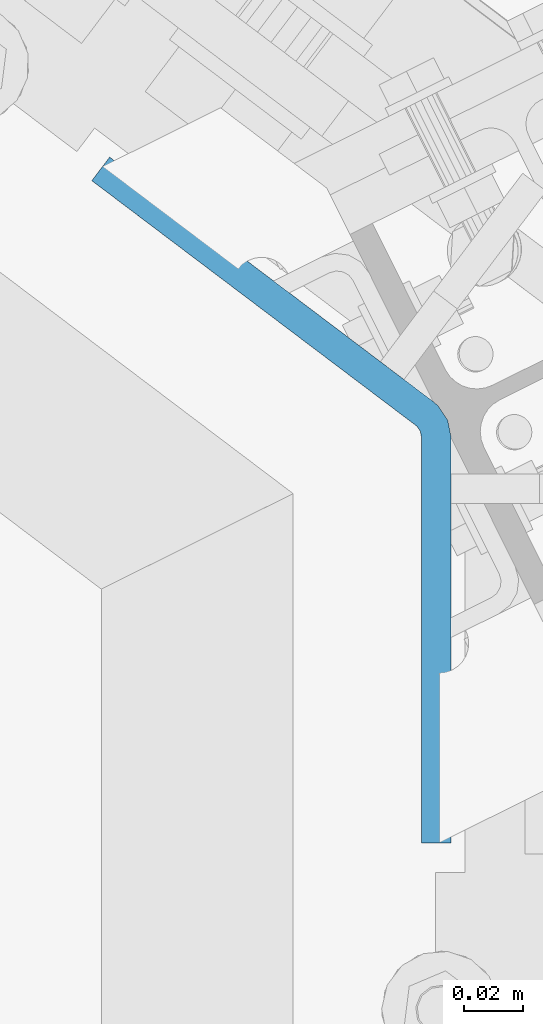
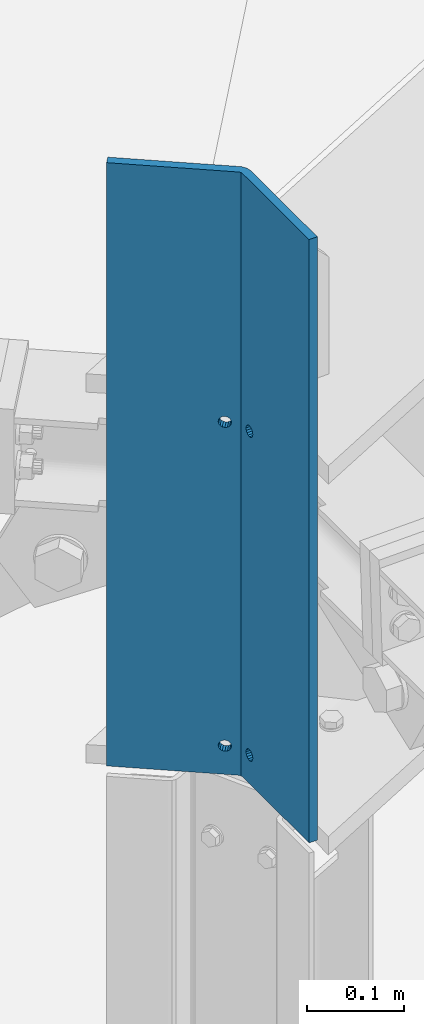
# One storey, part 84 of 476: 1 plate.
"""IFC2X3 building model written with IfcOpenShell, lengths in millimetres."""

from ifc_helpers import new_model, entity, si_unit, converted_unit, origin_with_axes, place, context, project, spatial, faceted_brep, material, layer, layer_set, element, save


model = new_model("IFC2X3")

# Units and contexts
model_context = context("Model", 3, precision=1e-09, world=origin_with_axes())
ifc_project = project(units=[si_unit("LENGTHUNIT", "METRE", prefix="MILLI"), si_unit("AREAUNIT", "SQUARE_METRE"), si_unit("VOLUMEUNIT", "CUBIC_METRE"), converted_unit("PLANEANGLEUNIT", "DEGREE", entity("IfcPlaneAngleMeasure", 0.01745329), si_unit("PLANEANGLEUNIT", "RADIAN"), dimensions=[0, 0, 0, 0, 0, 0, 0])], contexts=[model_context])

# Site, building, storey
site_placement = place(None, origin_with_axes())
site = spatial("IfcSite", under=ifc_project, at=site_placement, Name="mKR Teilneubau & Sanierung BA1 - Ostfildern", CompositionType="ELEMENT")
building_placement = place(site_placement, origin_with_axes())
building = spatial("IfcBuilding", under=site, at=building_placement, Name="Struktur 1", CompositionType="ELEMENT")
storey_placement = place(building_placement, origin_with_axes())
storey = spatial("IfcBuildingStorey", under=building, at=storey_placement, Name="Default Storey", CompositionType="ELEMENT", Elevation=0.0)

# Plate
ifc_material = material(Name="S235JR")
ifc_layer = layer(ifc_material, 10.0)
ifc_layer_set = layer_set([ifc_layer], Name="S235JR")
plate_placement = place(None, origin_with_axes())
element("IfcPlate", 1, at=plate_placement, inside=storey, material=ifc_layer_set, Name="Coverplate", ObjectType="Coverplate", context=model_context, shape_type="Brep", body=[
    faceted_brep([(8109.109814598, -5984.270635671, 5229.424240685), (8109.109426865, -5984.27029599, 5545.512903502), (8109.109415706, -6121.780202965, 5545.513051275), (8109.110348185, -6121.782301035, 4785.335725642), (8109.110359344, -5984.271112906, 4785.335577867), (8109.110315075, -5984.271074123, 4821.424240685), (8109.110314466, -5991.780857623, 4821.424248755), (8109.110317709, -5992.313779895, 4818.745082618), (8109.110320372, -5993.831408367, 4816.473796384), (8109.110322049, -5996.102697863, 4814.956172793), (8109.110322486, -5998.781865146, 4814.423256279), (8109.110321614, -6001.461031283, 4814.956178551), (8109.110319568, -6003.732317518, 4816.473807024), (8109.110316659, -6005.249941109, 4818.74509652), (8109.11031333, -6005.782857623, 4821.424263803), (8109.110310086, -6005.249935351, 4824.10342994), (8109.110307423, -6003.732306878, 4826.374716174), (8109.110305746, -6001.461017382, 4827.892339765), (8109.11030531, -5998.781850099, 4828.425256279), (8109.110306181, -5996.102683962, 4827.892334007), (8109.110308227, -5993.831397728, 4826.374705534), (8109.110311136, -5992.313774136, 4824.103416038), (8099.109426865, -5984.270295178, 5545.512891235), (8099.109425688, -5998.78107868, 5545.512906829), (8099.109415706, -6121.780202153, 5545.513039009), (8099.110359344, -5984.271112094, 4785.3355656), (8099.110348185, -6121.782300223, 4785.335713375), (8099.109804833, -5998.781410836, 5236.425244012), (8099.109805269, -6001.460578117, 5235.892327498), (8099.109806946, -6003.731867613, 5234.374703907), (8099.109809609, -6005.249496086, 5232.103417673), (8099.109812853, -6005.782418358, 5229.424251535), (8099.109816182, -6005.249501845, 5226.745084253), (8099.109819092, -6003.731878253, 5224.473794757), (8099.109821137, -6001.460592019, 5222.956166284), (8099.109822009, -5998.781425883, 5222.423244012), (8099.109821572, -5996.102258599, 5222.956160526), (8099.109819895, -5993.830969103, 5224.473784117), (8099.109817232, -5992.31334063, 5226.745070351), (8099.109813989, -5991.780418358, 5229.424236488), (8099.109810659, -5992.313334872, 5232.103403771), (8099.10980775, -5993.830958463, 5234.374693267), (8099.109805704, -5996.102244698, 5235.89232174), (8099.11030531, -5998.781849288, 4828.425244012), (8099.110305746, -6001.46101657, 4827.892327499), (8099.110307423, -6003.732306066, 4826.374703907), (8099.110310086, -6005.249934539, 4824.103417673), (8099.11031333, -6005.782856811, 4821.424251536), (8099.110316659, -6005.249940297, 4818.745084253), (8099.110319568, -6003.732316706, 4816.473794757), (8099.110321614, -6001.461030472, 4814.956166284), (8099.110322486, -5998.781864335, 4814.423244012), (8099.110322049, -5996.102697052, 4814.956160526), (8099.110320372, -5993.831407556, 4816.473784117), (8099.110317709, -5992.313779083, 4818.745070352), (8099.110314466, -5991.780856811, 4821.424236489), (8099.110311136, -5992.313773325, 4824.103403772), (8099.110308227, -5993.831396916, 4826.374693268), (8099.110306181, -5996.10268315, 4827.89232174), (8109.109816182, -6005.249502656, 5226.745096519), (8109.109819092, -6003.731879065, 5224.473807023), (8109.109821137, -6001.460592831, 5222.95617855), (8109.109822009, -5998.781426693, 5222.423256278), (8109.109821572, -5996.102259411, 5222.956172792), (8109.109819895, -5993.830969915, 5224.473796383), (8109.109817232, -5992.313341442, 5226.745082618), (8109.109813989, -5991.78041917, 5229.424248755), (8109.109810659, -5992.313335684, 5232.103416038), (8109.10980775, -5993.830959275, 5234.374705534), (8109.109805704, -5996.102245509, 5235.892334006), (8109.109804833, -5998.781411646, 5236.425256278), (8109.109805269, -6001.460578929, 5235.892339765), (8109.109806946, -6003.731868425, 5234.374716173), (8109.109809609, -6005.249496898, 5232.103429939), (8109.109812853, -6005.78241917, 5229.424263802)], [[[0, 1, 2, 3, 4, 5], [6, 7, 8, 9, 10, 11, 12, 13, 14, 15, 16, 17, 18, 19, 20, 21]], [[1, 22, 23, 24, 2]], [[22, 25, 26, 24, 23], [27, 28, 29, 30, 31, 32, 33, 34, 35, 36, 37, 38, 39, 40, 41, 42], [43, 44, 45, 46, 47, 48, 49, 50, 51, 52, 53, 54, 55, 56, 57, 58]], [[25, 4, 3, 26]], [[1, 0, 5, 4, 25, 22]], [[59, 60, 33, 32]], [[60, 61, 34, 33]], [[61, 62, 35, 34]], [[62, 63, 36, 35]], [[63, 64, 37, 36]], [[64, 65, 38, 37]], [[65, 66, 39, 38]], [[66, 67, 40, 39]], [[67, 68, 41, 40]], [[68, 69, 42, 41]], [[69, 70, 27, 42]], [[70, 71, 28, 27]], [[71, 72, 29, 28]], [[72, 73, 30, 29]], [[73, 74, 31, 30]], [[74, 59, 32, 31]], [[13, 12, 49, 48]], [[12, 11, 50, 49]], [[11, 10, 51, 50]], [[10, 9, 52, 51]], [[9, 8, 53, 52]], [[8, 7, 54, 53]], [[7, 6, 55, 54]], [[6, 21, 56, 55]], [[21, 20, 57, 56]], [[20, 19, 58, 57]], [[19, 18, 43, 58]], [[18, 17, 44, 43]], [[17, 16, 45, 44]], [[16, 15, 46, 45]], [[15, 14, 47, 46]], [[14, 13, 48, 47]], [[26, 3, 2, 24]]]),
    faceted_brep([(8097.124031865, -5980.281402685, 4785.335558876), (8097.123099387, -5980.280585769, 5545.512884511), (8103.15044443, -5972.301167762, 5545.51288333), (8103.151376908, -5972.301984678, 4785.335557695), (8099.110359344, -5984.271112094, 4785.3355656), (8099.109426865, -5984.270295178, 5545.512891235), (8098.728824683, -5982.356877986, 5545.512888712), (8098.729757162, -5982.357694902, 4785.335563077), (8097.644961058, -5980.734761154, 5545.51288564), (8097.645893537, -5980.735578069, 4785.335560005), (8104.716029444, -5973.663693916, 5545.512886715), (8104.716961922, -5973.664510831, 4785.33556108), (8107.967620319, -5978.530044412, 5545.512895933), (8107.968552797, -5978.530861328, 4785.335570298), (8109.109426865, -5984.27029599, 5545.512903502), (8109.110359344, -5984.271112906, 4785.335577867)], [[[0, 1, 2, 3]], [[4, 5, 6, 7]], [[7, 6, 8, 9]], [[9, 8, 1, 0]], [[3, 2, 10, 11]], [[11, 10, 12, 13]], [[13, 12, 14, 15]], [[15, 14, 5, 4]], [[7, 9, 0, 3, 11, 13, 15, 4]], [[6, 5, 14, 12, 10, 2, 1, 8]]]),
    faceted_brep([(8096.733497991, -5967.45409997, 5232.103155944), (8097.158736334, -5967.775309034, 5229.423989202), (8091.131391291, -5975.754727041, 5229.423990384), (8090.706152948, -5975.433517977, 5232.103157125), (8095.52252101, -5966.539374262, 5234.374443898), (8089.495175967, -5974.518792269, 5234.37444508), (8096.733497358, -5967.454100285, 5226.744822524), (8095.522519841, -5966.539374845, 5224.473534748), (8089.495174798, -5974.518792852, 5224.473535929), (8090.706152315, -5975.433518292, 5226.744823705), (8096.733449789, -5967.454123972, 4824.103155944), (8097.158688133, -5967.775333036, 4821.423989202), (8091.13134309, -5975.754751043, 4821.423990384), (8090.706104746, -5975.433541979, 4824.103157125), (8095.522472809, -5966.539398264, 4826.374443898), (8089.495127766, -5974.518816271, 4826.37444508), (8096.733449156, -5967.454124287, 4818.744822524), (8095.522471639, -5966.539398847, 4816.473534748), (8089.495126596, -5974.518816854, 4816.473535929), (8090.706104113, -5975.433542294, 4818.744823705), (8093.710164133, -5965.170391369, 5222.955908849), (8087.682819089, -5973.149809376, 5222.955910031), (8093.710165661, -5965.170390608, 5235.892070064), (8087.682820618, -5973.149808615, 5235.892071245), (8093.710115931, -5965.17041537, 4814.955908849), (8087.682770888, -5973.149833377, 4814.955910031), (8093.710117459, -5965.170414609, 4827.892070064), (8087.682772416, -5973.149832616, 4827.892071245), (8097.124031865, -5980.281402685, 4785.335558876), (8097.123099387, -5980.280585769, 5545.512884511), (8085.544073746, -5971.534235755, 5545.512860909), (7987.398196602, -5897.39862015, 5545.512660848), (7987.398106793, -5897.39866487, 4785.335335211), (8085.54495337, -5971.535006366, 4828.424990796), (8085.544951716, -5971.53500719, 4814.422990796), (8083.40713267, -5969.92018094, 4814.955910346), (8081.59477732, -5968.551197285, 4816.473536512), (8080.38380034, -5967.636471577, 4818.744824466), (8079.958561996, -5967.315262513, 4821.423991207), (8080.383800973, -5967.636471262, 4824.103157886), (8081.59477849, -5968.551196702, 4826.374445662), (8083.407134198, -5969.920180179, 4827.89207156), (8085.544452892, -5971.534567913, 5236.42485402), (8085.545001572, -5971.534982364, 5236.424990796), (8085.544999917, -5971.534983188, 5222.422990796), (8085.544470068, -5971.53458296, 5222.423122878), (8083.407180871, -5969.920156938, 5222.955910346), (8081.594825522, -5968.551173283, 5224.473536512), (8080.383848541, -5967.636447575, 5226.744824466), (8079.958610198, -5967.315238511, 5229.423991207), (8080.383849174, -5967.63644726, 5232.103157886), (8081.594826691, -5968.5511727, 5234.374445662), (8083.4071824, -5969.920156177, 5235.89207156), (8103.15044443, -5972.301167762, 5545.51288333), (7993.425541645, -5889.419202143, 5545.512659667), (8103.150832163, -5972.301507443, 5229.424001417), (8103.15133264, -5972.301945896, 4821.424001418), (8103.151376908, -5972.301984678, 4785.335557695), (7993.425451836, -5889.419246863, 4785.33533403), (8091.572298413, -5963.555588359, 4828.424989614), (8089.434479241, -5961.940762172, 4827.892070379), (8087.622123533, -5960.571778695, 4826.37444448), (8086.411146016, -5959.657053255, 4824.103156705), (8085.985907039, -5959.335844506, 4821.423990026), (8086.411145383, -5959.65705357, 4818.744823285), (8087.622122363, -5960.571779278, 4816.47353533), (8089.434477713, -5961.940762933, 4814.955909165), (8091.572296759, -5963.555589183, 4814.422989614), (8091.572346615, -5963.555564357, 5236.424989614), (8089.434527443, -5961.94073817, 5235.892070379), (8087.622171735, -5960.571754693, 5234.37444448), (8086.411194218, -5959.657029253, 5232.103156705), (8085.985955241, -5959.335820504, 5229.423990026), (8086.411193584, -5959.657029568, 5226.744823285), (8087.622170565, -5960.571755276, 5224.47353533), (8089.434525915, -5961.940738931, 5222.955909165), (8091.572344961, -5963.555565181, 5222.422989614)], [[[0, 1, 2, 3]], [[4, 0, 3, 5]], [[6, 7, 8, 9]], [[1, 6, 9, 2]], [[10, 11, 12, 13]], [[14, 10, 13, 15]], [[16, 17, 18, 19]], [[11, 16, 19, 12]], [[7, 20, 21, 8]], [[22, 4, 5, 23]], [[17, 24, 25, 18]], [[26, 14, 15, 27]], [[28, 29, 30, 31, 32], [33, 27, 15, 13, 12, 19, 18, 25, 34, 35, 36, 37, 38, 39, 40, 41], [42, 43, 23, 5, 3, 2, 9, 8, 21, 44, 45, 46, 47, 48, 49, 50, 51, 52]], [[29, 53, 54, 31, 30]], [[53, 55, 56, 57, 58, 54], [11, 10, 14, 26, 59, 60, 61, 62, 63, 64, 65, 66, 67, 24, 17, 16], [1, 0, 4, 22, 68, 69, 70, 71, 72, 73, 74, 75, 76, 20, 7, 6]], [[57, 28, 32, 58]], [[55, 53, 29, 28, 57, 56]], [[69, 68, 43, 42, 52]], [[70, 69, 52, 51]], [[71, 70, 51, 50]], [[72, 71, 50, 49]], [[73, 72, 49, 48]], [[74, 73, 48, 47]], [[75, 74, 47, 46]], [[76, 75, 46, 45, 44]], [[20, 76, 44, 21]], [[68, 22, 23, 43]], [[60, 59, 33, 41]], [[61, 60, 41, 40]], [[62, 61, 40, 39]], [[63, 62, 39, 38]], [[64, 63, 38, 37]], [[65, 64, 37, 36]], [[66, 65, 36, 35]], [[67, 66, 35, 34]], [[24, 67, 34, 25]], [[59, 26, 27, 33]], [[58, 32, 31, 54]]]),
])

save(model, "model.ifc")
